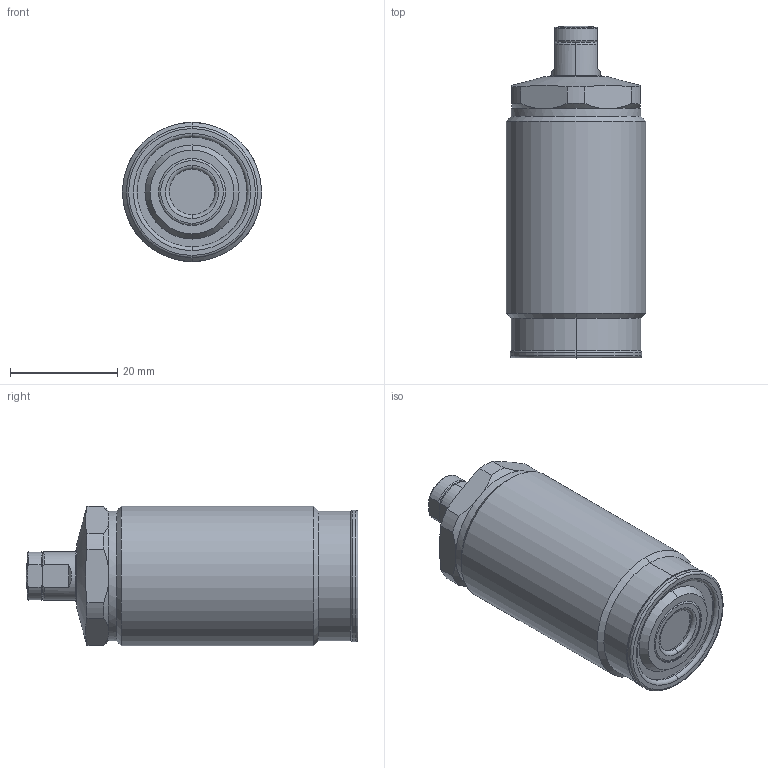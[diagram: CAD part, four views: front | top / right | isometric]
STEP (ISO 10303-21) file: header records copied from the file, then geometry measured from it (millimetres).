
FILE_DESCRIPTION(/* description */ (''),/* implementation_level */ '2;1');
FILE_NAME(/* name */ 'TNL26.stp',/* time_stamp */ '2025-01-09T11:17:02+08:00',/* author */ (''),/* organization */ (''),/* preprocessor_version */ 'ST-DEVELOPER v16.7',/* originating_system */ 'SIEMENS PLM Software NX 12.0',/* authorisation */ '');
FILE_SCHEMA (('AUTOMOTIVE_DESIGN { 1 0 10303 214 3 1 1 1 }'));
Length unit declared in the file: millimetre
Products named in the file (6): TNL26-01957; TNL26-02; TNL26-03; TNL26-04; TNL26-05; TNL26_stp
Assembly tree (5 placements, depth 2):
  TNL26_stp
    TNL26-05
    TNL26-04
    TNL26-03
    TNL26-02
    TNL26-01957
Bounding box: 26 x 62 x 26 mm (x, y, z)
Volume: 27156.1 mm3; surface area: 6652.2 mm2
Topology: 5 solids, 5 shells, 129 faces, 281 edges, 169 vertices
Faces by surface type: cylinder 38, torus 35, plane 34, cone 20, sphere 2
Full cylindrical faces by diameter (mm): 24.2 x1, 26 x1
Entity records: 3882 total; most frequent: CARTESIAN_POINT 845, DIRECTION 686, ORIENTED_EDGE 554, AXIS2_PLACEMENT_3D 306, EDGE_CURVE 277, CIRCLE 171, VERTEX_POINT 169, EDGE_LOOP 146
